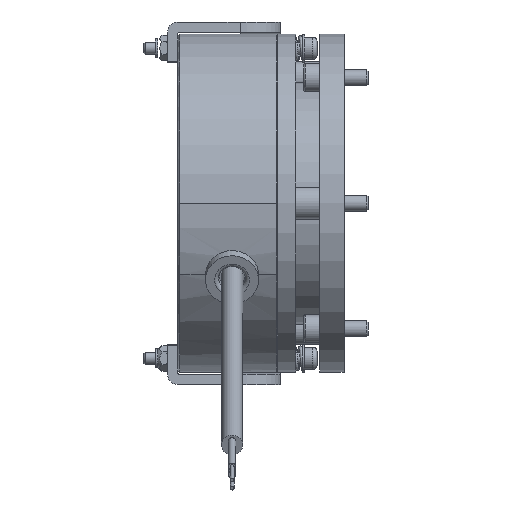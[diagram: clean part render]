
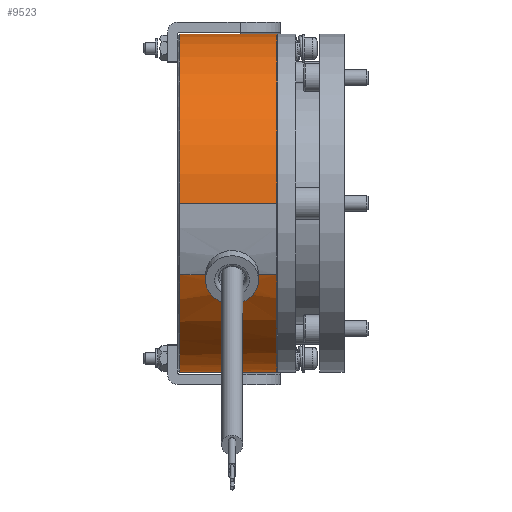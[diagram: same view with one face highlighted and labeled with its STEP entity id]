
A CAD part, front view. The second image highlights one B-rep face of the part: STEP entity #9523.
In plain terms, the highlighted cylindrical face has radius 42 mm (diameter 84 mm), a partial arc.
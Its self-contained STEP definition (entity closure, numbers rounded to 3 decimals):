
#125=B_SPLINE_CURVE_WITH_KNOTS('',3,(#14461,#14462,#14463,#14464,#14465,
#14466,#14467,#14468,#14469,#14470,#14471,#14472,#14473,#14474,#14475,#14476,
#14477,#14478,#14479),.UNSPECIFIED.,.F.,.F.,(4,2,2,2,3,2,2,2,4),(2.3,
2.492,2.684,2.875,3.067,3.258,
3.449,3.641,3.833),.UNSPECIFIED.);
#320=CYLINDRICAL_SURFACE('',#10136,42.);
#740=CIRCLE('',#10137,42.);
#741=CIRCLE('',#10138,42.);
#742=CIRCLE('',#10139,42.);
#743=CIRCLE('',#10140,42.);
#1308=FACE_OUTER_BOUND('',#1831,.T.);
#1831=EDGE_LOOP('',(#6332,#6333,#6334,#6335,#6336,#6337,#6338,#6339,#6340,
#6341));
#2460=LINE('',#14445,#2972);
#2461=LINE('',#14451,#2973);
#2462=LINE('',#14457,#2974);
#2463=LINE('',#14459,#2975);
#2464=LINE('',#14480,#2976);
#2972=VECTOR('',#11473,42.);
#2973=VECTOR('',#11478,42.);
#2974=VECTOR('',#11483,42.);
#2975=VECTOR('',#11484,10.);
#2976=VECTOR('',#11485,10.);
#3669=VERTEX_POINT('',#14443);
#3670=VERTEX_POINT('',#14444);
#3671=VERTEX_POINT('',#14446);
#3672=VERTEX_POINT('',#14448);
#3673=VERTEX_POINT('',#14450);
#3674=VERTEX_POINT('',#14452);
#3675=VERTEX_POINT('',#14454);
#3676=VERTEX_POINT('',#14456);
#3677=VERTEX_POINT('',#14458);
#3678=VERTEX_POINT('',#14460);
#4699=EDGE_CURVE('',#3669,#3670,#2460,.T.);
#4700=EDGE_CURVE('',#3671,#3669,#740,.T.);
#4701=EDGE_CURVE('',#3672,#3671,#741,.T.);
#4702=EDGE_CURVE('',#3673,#3672,#2461,.T.);
#4703=EDGE_CURVE('',#3674,#3673,#742,.T.);
#4704=EDGE_CURVE('',#3675,#3674,#743,.T.);
#4705=EDGE_CURVE('',#3676,#3675,#2462,.T.);
#4706=EDGE_CURVE('',#3677,#3676,#2463,.T.);
#4707=EDGE_CURVE('',#3677,#3678,#125,.T.);
#4708=EDGE_CURVE('',#3670,#3678,#2464,.T.);
#6332=ORIENTED_EDGE('',*,*,#4699,.F.);
#6333=ORIENTED_EDGE('',*,*,#4700,.F.);
#6334=ORIENTED_EDGE('',*,*,#4701,.F.);
#6335=ORIENTED_EDGE('',*,*,#4702,.F.);
#6336=ORIENTED_EDGE('',*,*,#4703,.F.);
#6337=ORIENTED_EDGE('',*,*,#4704,.F.);
#6338=ORIENTED_EDGE('',*,*,#4705,.F.);
#6339=ORIENTED_EDGE('',*,*,#4706,.F.);
#6340=ORIENTED_EDGE('',*,*,#4707,.T.);
#6341=ORIENTED_EDGE('',*,*,#4708,.F.);
#9523=ADVANCED_FACE('',(#1308),#320,.T.);
#10136=AXIS2_PLACEMENT_3D('',#14442,#11471,#11472);
#10137=AXIS2_PLACEMENT_3D('',#14447,#11474,#11475);
#10138=AXIS2_PLACEMENT_3D('',#14449,#11476,#11477);
#10139=AXIS2_PLACEMENT_3D('',#14453,#11479,#11480);
#10140=AXIS2_PLACEMENT_3D('',#14455,#11481,#11482);
#11471=DIRECTION('center_axis',(1.,0.,0.));
#11472=DIRECTION('ref_axis',(0.,0.906,0.423));
#11473=DIRECTION('',(1.,0.,0.));
#11474=DIRECTION('center_axis',(-1.,0.,0.));
#11475=DIRECTION('ref_axis',(0.,-1.,0.));
#11476=DIRECTION('center_axis',(-1.,0.,0.));
#11477=DIRECTION('ref_axis',(0.,-1.,0.));
#11478=DIRECTION('',(-1.,0.,0.));
#11479=DIRECTION('center_axis',(1.,0.,0.));
#11480=DIRECTION('ref_axis',(0.,1.,0.));
#11481=DIRECTION('center_axis',(1.,0.,0.));
#11482=DIRECTION('ref_axis',(0.,1.,0.));
#11483=DIRECTION('',(1.,0.,0.));
#11484=DIRECTION('',(1.,0.,0.));
#11485=DIRECTION('',(1.,0.,0.));
#14442=CARTESIAN_POINT('Origin',(-12.3,0.,0.));
#14443=CARTESIAN_POINT('',(-24.1,-38.065,-17.75));
#14444=CARTESIAN_POINT('',(-17.7,-38.065,-17.75));
#14445=CARTESIAN_POINT('',(-12.3,-38.065,-17.75));
#14446=CARTESIAN_POINT('',(-24.1,42.,0.));
#14447=CARTESIAN_POINT('Origin',(-24.1,0.,0.));
#14448=CARTESIAN_POINT('',(-24.1,-42.,0.));
#14449=CARTESIAN_POINT('Origin',(-24.1,0.,0.));
#14450=CARTESIAN_POINT('',(0.,-42.,0.));
#14451=CARTESIAN_POINT('',(-12.3,-42.,0.));
#14452=CARTESIAN_POINT('',(0.,0.,-42.));
#14453=CARTESIAN_POINT('Origin',(0.,0.,0.));
#14454=CARTESIAN_POINT('',(0.,-38.065,-17.75));
#14455=CARTESIAN_POINT('Origin',(0.,0.,0.));
#14456=CARTESIAN_POINT('',(-4.5,-38.065,-17.75));
#14457=CARTESIAN_POINT('',(-12.3,-38.065,-17.75));
#14458=CARTESIAN_POINT('',(-6.,-38.065,-17.75));
#14459=CARTESIAN_POINT('',(-12.3,-38.065,-17.75));
#14460=CARTESIAN_POINT('',(-16.2,-38.065,-17.75));
#14461=CARTESIAN_POINT('Ctrl Pts',(-6.,-38.065,
-17.75));
#14462=CARTESIAN_POINT('Ctrl Pts',(-6.,-37.795,
-18.329));
#14463=CARTESIAN_POINT('Ctrl Pts',(-6.129,-37.492,
-18.94));
#14464=CARTESIAN_POINT('Ctrl Pts',(-6.653,-36.911,
-20.049));
#14465=CARTESIAN_POINT('Ctrl Pts',(-7.047,-36.633,-20.548));
#14466=CARTESIAN_POINT('Ctrl Pts',(-7.954,-36.184,
-21.328));
#14467=CARTESIAN_POINT('Ctrl Pts',(-8.527,-35.983,
-21.662));
#14468=CARTESIAN_POINT('Ctrl Pts',(-9.781,-35.714,
-22.104));
#14469=CARTESIAN_POINT('Ctrl Pts',(-10.462,-35.646,
-22.212));
#14470=CARTESIAN_POINT('Ctrl Pts',(-11.1,-35.646,
-22.212));
#14471=CARTESIAN_POINT('Ctrl Pts',(-11.737,-35.646,
-22.212));
#14472=CARTESIAN_POINT('Ctrl Pts',(-12.417,-35.714,
-22.104));
#14473=CARTESIAN_POINT('Ctrl Pts',(-13.669,-35.982,
-21.664));
#14474=CARTESIAN_POINT('Ctrl Pts',(-14.241,-36.183,-21.331));
#14475=CARTESIAN_POINT('Ctrl Pts',(-15.149,-36.631,-20.552));
#14476=CARTESIAN_POINT('Ctrl Pts',(-15.545,-36.909,
-20.052));
#14477=CARTESIAN_POINT('Ctrl Pts',(-16.07,-37.491,
-18.942));
#14478=CARTESIAN_POINT('Ctrl Pts',(-16.2,-37.794,-18.33));
#14479=CARTESIAN_POINT('Ctrl Pts',(-16.2,-38.065,
-17.75));
#14480=CARTESIAN_POINT('',(-19.5,-38.065,-17.75));
